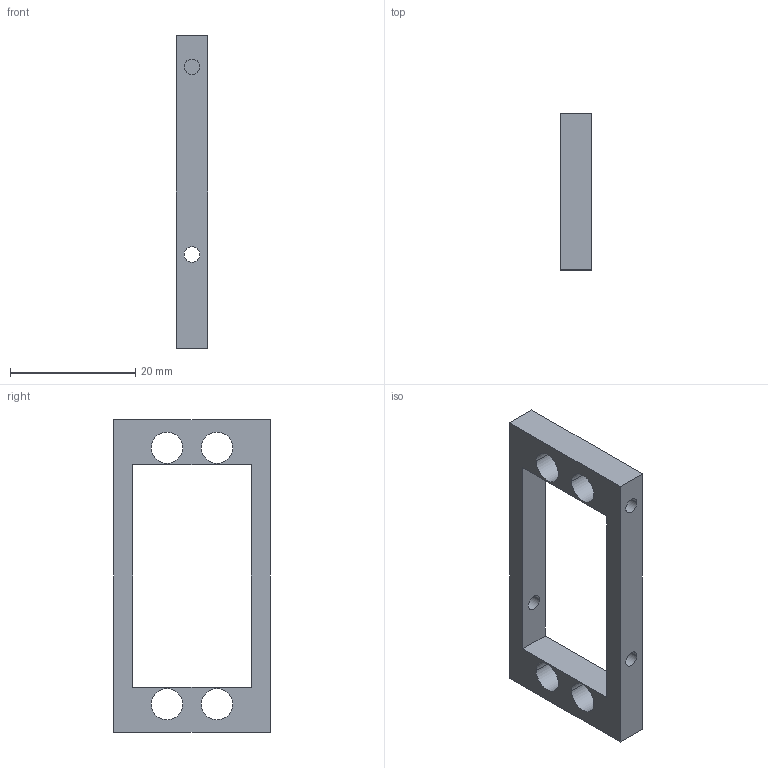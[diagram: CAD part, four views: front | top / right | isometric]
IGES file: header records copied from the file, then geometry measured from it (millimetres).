
Start section: START RECORD GO HERE.
Global section: file name: 13.igs; native system: DASSAULT SYSTEMES CATIA V5 R21 - www.3ds.com; preprocessor: CATIA Version 5 Release 21 ; author: E___; organization: MSI; date: 20160804.140013; units: millimetre
Bounding box: 5 x 25 x 50 mm (x, y, z)
Surface area: 2693.4 mm2 (no closed solid volume)
Topology: 0 solids, 0 shells, 28 faces, 144 edges, 144 vertices
Faces by surface type: revolution 16, plane 12
